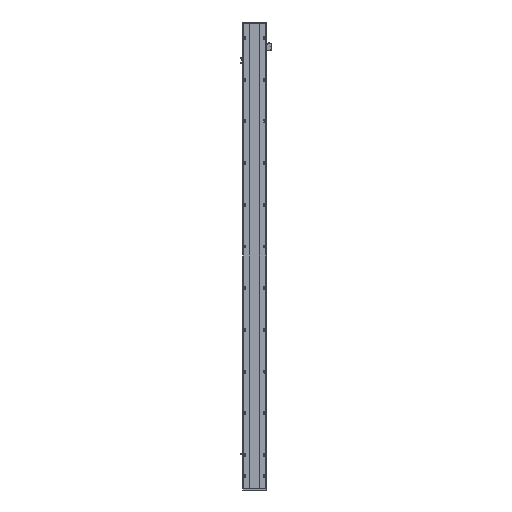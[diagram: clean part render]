
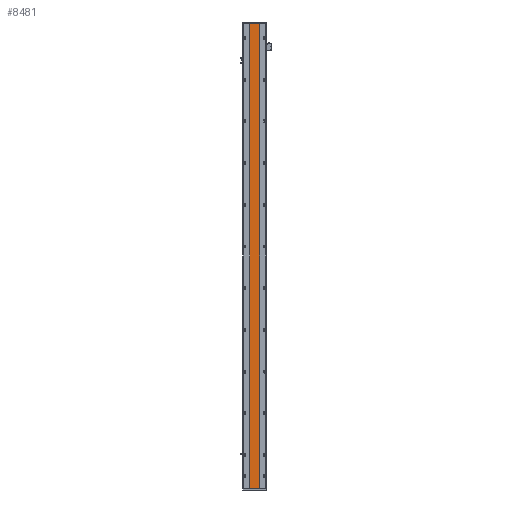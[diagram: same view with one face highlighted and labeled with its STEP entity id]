
A CAD part, front view. The second image highlights one B-rep face of the part: STEP entity #8481.
In plain terms, the highlighted planar face has unit normal (0, -1, 0).
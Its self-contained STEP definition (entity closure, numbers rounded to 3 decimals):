
#303 = DIRECTION ( 'NONE',  ( 0., 0., -1. ) ) ;
#388 = VERTEX_POINT ( 'NONE', #11576 ) ;
#782 = DIRECTION ( 'NONE',  ( 1., 0., 0. ) ) ;
#1291 = CARTESIAN_POINT ( 'NONE',  ( 0., 115.96, 2404. ) ) ;
#1693 = EDGE_CURVE ( 'NONE', #23046, #10357, #16734, .T. ) ;
#1816 = DIRECTION ( 'NONE',  ( 0., 0., -1. ) ) ;
#5036 = FACE_OUTER_BOUND ( 'NONE', #26015, .T. ) ;
#5265 = EDGE_CURVE ( 'NONE', #25568, #388, #30976, .T. ) ;
#6997 = CARTESIAN_POINT ( 'NONE',  ( 183.063, 115.96, 2404. ) ) ;
#7876 = CARTESIAN_POINT ( 'NONE',  ( 133.07, 115.96, 2404. ) ) ;
#8481 = ADVANCED_FACE ( 'NONE', ( #5036 ), #8980, .F. ) ;
#8575 = ORIENTED_EDGE ( 'NONE', *, *, #5265, .T. ) ;
#8967 = VECTOR ( 'NONE', #20617, 1000. ) ;
#8980 = PLANE ( 'NONE',  #20394 ) ;
#9302 = CARTESIAN_POINT ( 'NONE',  ( 183.063, 115.96, 2404. ) ) ;
#10091 = VECTOR ( 'NONE', #1816, 1000. ) ;
#10357 = VERTEX_POINT ( 'NONE', #29810 ) ;
#11500 = DIRECTION ( 'NONE',  ( 0., 1., 0. ) ) ;
#11576 = CARTESIAN_POINT ( 'NONE',  ( 133.07, 115.96, 0. ) ) ;
#15506 = CARTESIAN_POINT ( 'NONE',  ( 0., 115.96, 0. ) ) ;
#16612 = LINE ( 'NONE', #15506, #21306 ) ;
#16734 = LINE ( 'NONE', #9302, #10091 ) ;
#18579 = ORIENTED_EDGE ( 'NONE', *, *, #25923, .T. ) ;
#19865 = CARTESIAN_POINT ( 'NONE',  ( 133.07, 115.96, 2404. ) ) ;
#20394 = AXIS2_PLACEMENT_3D ( 'NONE', #1291, #11500, #28957 ) ;
#20617 = DIRECTION ( 'NONE',  ( 1., 0., 0. ) ) ;
#21306 = VECTOR ( 'NONE', #782, 1000. ) ;
#22258 = LINE ( 'NONE', #22788, #8967 ) ;
#22788 = CARTESIAN_POINT ( 'NONE',  ( 0., 115.96, 2404. ) ) ;
#23046 = VERTEX_POINT ( 'NONE', #6997 ) ;
#25568 = VERTEX_POINT ( 'NONE', #19865 ) ;
#25923 = EDGE_CURVE ( 'NONE', #388, #10357, #16612, .T. ) ;
#26015 = EDGE_LOOP ( 'NONE', ( #18579, #27145, #26217, #8575 ) ) ;
#26217 = ORIENTED_EDGE ( 'NONE', *, *, #30162, .F. ) ;
#27145 = ORIENTED_EDGE ( 'NONE', *, *, #1693, .F. ) ;
#28957 = DIRECTION ( 'NONE',  ( -1., 0., 0. ) ) ;
#29802 = VECTOR ( 'NONE', #303, 1000. ) ;
#29810 = CARTESIAN_POINT ( 'NONE',  ( 183.063, 115.96, 0. ) ) ;
#30162 = EDGE_CURVE ( 'NONE', #25568, #23046, #22258, .T. ) ;
#30976 = LINE ( 'NONE', #7876, #29802 ) ;
